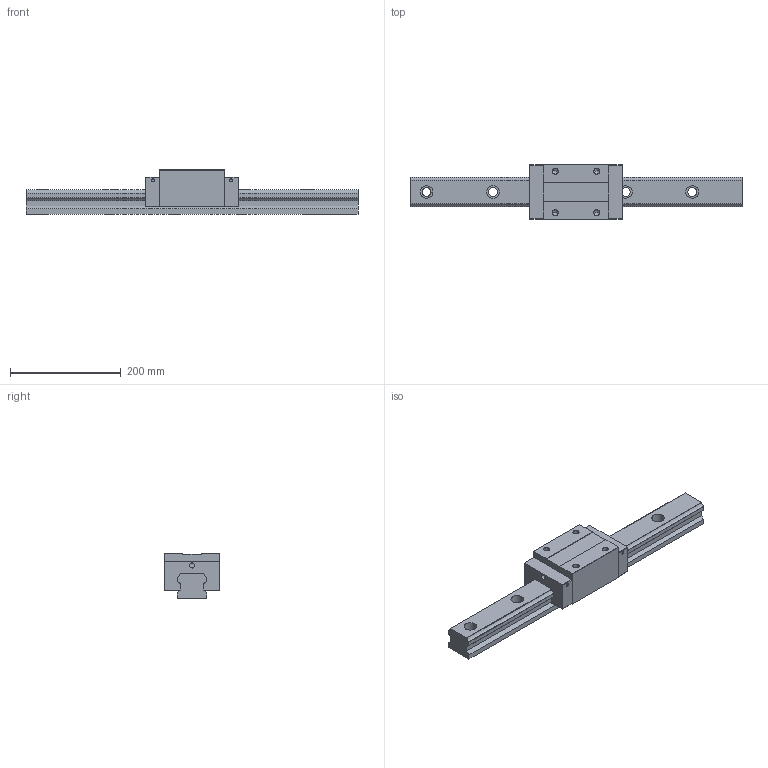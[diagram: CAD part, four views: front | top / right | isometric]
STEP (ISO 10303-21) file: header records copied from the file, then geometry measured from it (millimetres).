
FILE_DESCRIPTION (( 'STEP AP203' ), '1' );
FILE_NAME ('TRH55VL-SU.STEP', '2024-06-26T06:03:36', ( '' ), ( '' ), 'SwSTEP 2.0', 'SolidWorks 2022', '' );
FILE_SCHEMA (( 'CONFIG_CONTROL_DESIGN' ));
Length unit declared in the file: millimetre
Products named in the file (1): TRH55VL-SU
Bounding box: 600 x 100 x 80 mm (x, y, z)
Volume: 1983895.6 mm3; surface area: 215611.6 mm2
Topology: 2 solids, 2 shells, 175 faces, 460 edges, 296 vertices
Faces by surface type: plane 83, cylinder 76, cone 16
Entity records: 5453 total; most frequent: DIRECTION 964, CARTESIAN_POINT 924, ORIENTED_EDGE 904, EDGE_CURVE 452, AXIS2_PLACEMENT_3D 336, VERTEX_POINT 296, VECTOR 292, LINE 292
